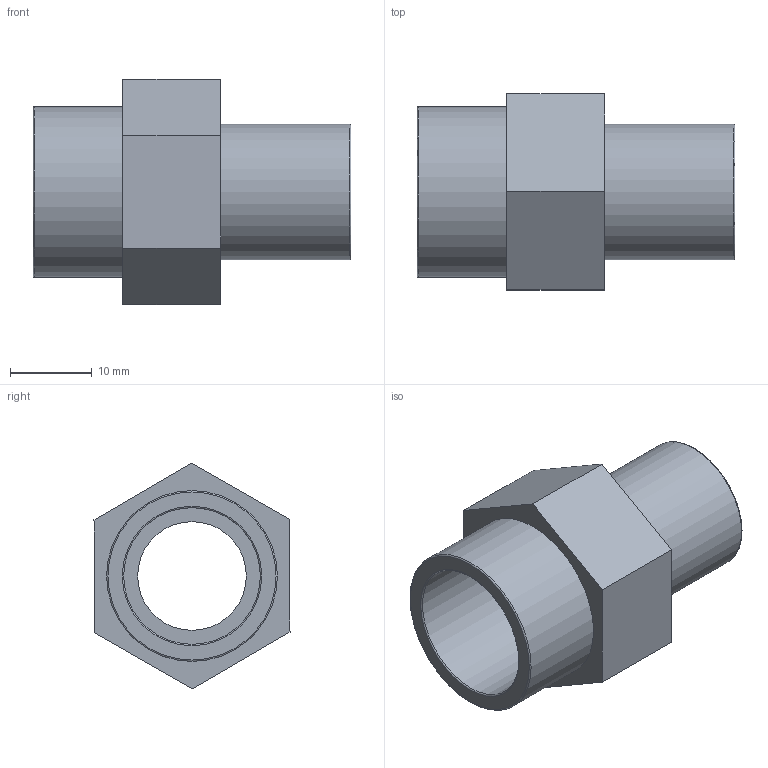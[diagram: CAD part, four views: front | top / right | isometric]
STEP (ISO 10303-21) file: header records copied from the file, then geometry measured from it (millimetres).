
FILE_DESCRIPTION(/* description */ ('PLASSON THR. REDUCING NIPPLE 1/2"-3/8" PVC'),/* implementation_level */ '2;1');
FILE_NAME(/* name */ 'C:\Dropbox\KIMPROJECTS-Inventor\99-16-3568-Processing\PVC Catalog 2017\051601\051601005003.ipt.stp',/* time_stamp */ '2017-12-07T16:00:49+02:00',/* author */ ('KIM'),/* organization */ (''),/* preprocessor_version */ 'ST-DEVELOPER v15.6',/* originating_system */ 'Autodesk Inventor 2015',/* authorisation */ '');
FILE_SCHEMA (('AUTOMOTIVE_DESIGN { 1 0 10303 214 3 1 1 }'));
Length unit declared in the file: millimetre
Products named in the file (1): 051601005003
Bounding box: 39 x 24.05 x 27.71 mm (x, y, z)
Volume: 6217.4 mm3; surface area: 5109.5 mm2
Topology: 1 solids, 1 shells, 19 faces, 38 edges, 24 vertices
Faces by surface type: plane 11, torus 4, cylinder 4
Full cylindrical faces by diameter (mm): 13.33 x1, 16.662 x1, 16.764 x1, 20.955 x1
Entity records: 480 total; most frequent: DIRECTION 82, CARTESIAN_POINT 74, ORIENTED_EDGE 60, EDGE_LOOP 32, AXIS2_PLACEMENT_3D 32, EDGE_CURVE 30, VERTEX_POINT 24, FACE_OUTER_BOUND 19
